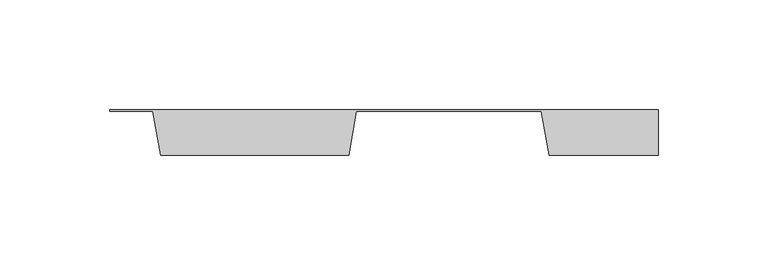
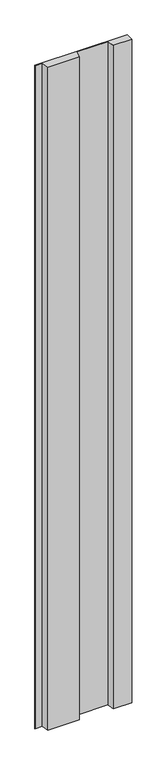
"""IFC4 building model written with IfcOpenShell, lengths in millimetres: plate geometry, ATELIERS 3S_NEW YORK BROOKLYN 950_VERTICAL : AZURO."""

from ifc_helpers import new_model, si_unit, origin, origin_with_axes, place, context, project, spatial, polyline, outline, extrude, source, transform, mapped, element, save


def plate_b1030144(model_context):
    return source(origin(), model_context, "Body", "SweptSolid", [
        extrude(outline(polyline([(-105.3058459, -0.8), (-124.9999998, -0.8), (-124.9999998, 0.0), (124.9999998, 0.0), (124.9999998, -20.75), (75.2649566, -20.75), (71.738417, -0.75), (-12.6322583, -0.75), (-16.1587979, -20.75), (-101.7881226, -20.75), (-105.3058459, -0.8)])), origin_with_axes(), (0.0, 0.0, 1.0), 1900.0),
    ])


if __name__ == "__main__":
    model = new_model("IFC4")
    model_context = context("Model", 3, world=origin())
    ifc_project = project(units=[si_unit("LENGTHUNIT", "METRE", prefix="MILLI")], contexts=[model_context])
    site = spatial("IfcSite", under=ifc_project)
    building = spatial("IfcBuilding", under=site)
    placement = place(None, origin())
    plate_shape = plate_b1030144(model_context)
    element("IfcPlate", 1, ObjectType="ATELIERS 3S_NEW YORK BROOKLYN 950_VERTICAL : AZURO", at=placement, inside=building, context=model_context, shape_type="MappedRepresentation", body=[
        mapped(plate_shape, transform((0.0, 0.0, 0.0), x_axis=(1.0, 0.0, 0.0), y_axis=(0.0, 1.0, 0.0), z_axis=(0.0, 0.0, 1.0))),
    ])
    save(model, "model.ifc")
